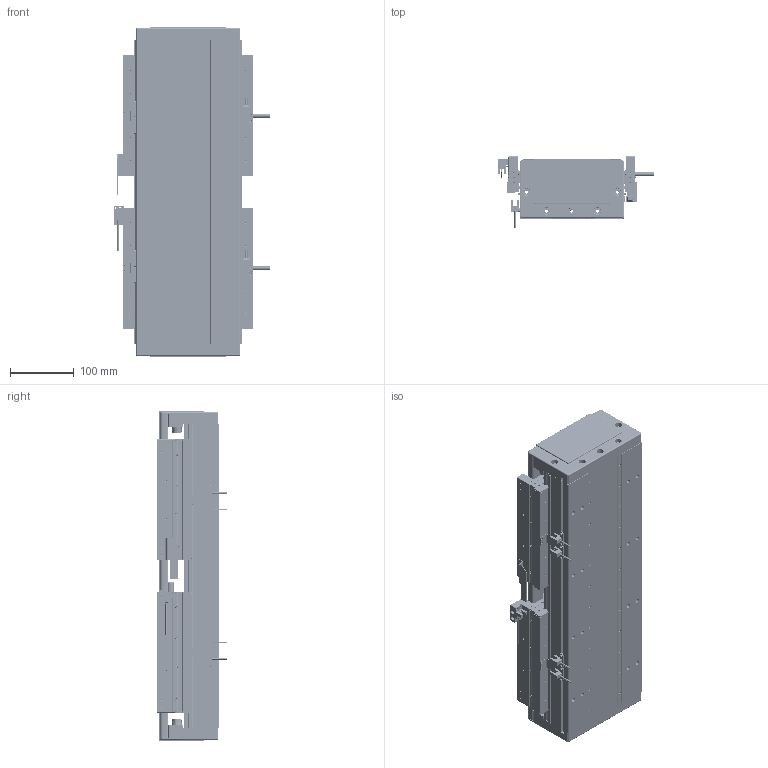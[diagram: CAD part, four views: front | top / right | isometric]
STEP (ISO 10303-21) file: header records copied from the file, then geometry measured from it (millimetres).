
FILE_DESCRIPTION (( 'STEP AP203' ), '1' );
FILE_NAME ('DA-C165-2-C2-T20-C010-0.2 直线电机.STEP', '2023-05-11T08:13:28', ( '微软用户' ), ( '微软中国' ), 'SwSTEP 2.0', 'SolidWorks 2019', '' );
FILE_SCHEMA (( 'CONFIG_CONTROL_DESIGN' ));
Length unit declared in the file: millimetre
Products named in the file (19): IU-CU165-L-00 菁釱_L480; 复件 DA126-GYP-ZJ-00 中间光电感应片^DA-C165-C2-T-C010-0.2-N 直线电机; 葩璃 DA95-GT-T-00^IU-CU165-L 菁釱絳寢_T; 复件 XD-U-02L 磁栅尺^DA-C165-C2-T-C010-0.2-N 直线电机_T; 葩璃 CKM01-W075-TRL^DA-C165-C2-T-C010-0.2-N 眻盄萇儂; 复件 DKW-HXJ-JY-00 缓冲橡胶^DA-C165-C2-T-C010-0.2-N 直线电机; DA-C165-2-C2-T20-C010-0.2 眻盄萇儂; 复件 DA165-GYP-00 光电感应片^DA-C165-C2-T-C010-0.2-N 直线电机; 复件 DA95-HXJ-00 缓冲橡胶^DA-C165-C2-T-C010-0.2-N 直线电机; 珨极趙賑雄怢啣wf-C2; 复件 66338-1000-006-00 光电感应块^DA-C165-C2-T-C010-0.2-N 直线电机; 复件 DA165-DG-H-N-00 端盖^DA-C165-C2-T-C010-0.2-N 直线电机; 复件 DMA-010-0.2 读数头^DA-C165-C2-T-C010-0.2-N 直线电机; 复件 CKM02-W075-C1C2-TP-3.0 一体电机-C2^DA-C165-C2-T-C010-0.2-N 直线电机; IU-CU165-L 菁釱絳寢; 复件 六角薄螺母 M3^DA-C165-C2-T-C010-0.2-N 直线电机_GB_FASTENER_NUT_STNAB M3-C; 葩璃 PM-Y45^DA-C165-C2-T-C010-0.2-N 眻盄萇儂; 复件 DA165-T-002-00 盖板^DA-C165-C2-T-C010-0.2-N 直线电机_0840-002-00; 葩璃 PM-T45^DA-C165-C2-T-C010-0.2-N 眻盄萇儂
Assembly tree (38 placements, depth 3):
  DA-C165-2-C2-T20-C010-0.2 眻盄萇儂
    IU-CU165-L 菁釱絳寢
      IU-CU165-L-00 菁釱_L480
      葩璃 DA95-GT-T-00^IU-CU165-L 菁釱絳寢_T  x4
    复件 DA165-DG-H-N-00 端盖^DA-C165-C2-T-C010-0.2-N 直线电机  x2
    复件 DA95-HXJ-00 缓冲橡胶^DA-C165-C2-T-C010-0.2-N 直线电机  x4
    复件 DA165-T-002-00 盖板^DA-C165-C2-T-C010-0.2-N 直线电机_0840-002-00
    复件 XD-U-02L 磁栅尺^DA-C165-C2-T-C010-0.2-N 直线电机_T
    葩璃 PM-T45^DA-C165-C2-T-C010-0.2-N 眻盄萇儂  x4
    葩璃 CKM01-W075-TRL^DA-C165-C2-T-C010-0.2-N 眻盄萇儂
    复件 CKM02-W075-C1C2-TP-3.0 一体电机-C2^DA-C165-C2-T-C010-0.2-N 直线电机  x2
    复件 DMA-010-0.2 读数头^DA-C165-C2-T-C010-0.2-N 直线电机  x2
    复件 DA165-GYP-00 光电感应片^DA-C165-C2-T-C010-0.2-N 直线电机  x2
    复件 66338-1000-006-00 光电感应块^DA-C165-C2-T-C010-0.2-N 直线电机
    葩璃 PM-Y45^DA-C165-C2-T-C010-0.2-N 眻盄萇儂
    复件 DA126-GYP-ZJ-00 中间光电感应片^DA-C165-C2-T-C010-0.2-N 直线电机
    复件 DKW-HXJ-JY-00 缓冲橡胶^DA-C165-C2-T-C010-0.2-N 直线电机  x2
    复件 六角薄螺母 M3^DA-C165-C2-T-C010-0.2-N 直线电机_GB_FASTENER_NUT_STNAB M3-C  x6
    珨极趙賑雄怢啣wf-C2  x2
Bounding box: 247.2 x 111.45 x 520 mm (x, y, z)
Volume: 6421034.2 mm3; surface area: 1509689.1 mm2
Topology: 115 solids, 115 shells, 4568 faces, 11855 edges, 7320 vertices
Faces by surface type: cylinder 2046, plane 1746, cone 680, torus 88, sphere 8
Entity records: 83364 total; most frequent: CARTESIAN_POINT 17146, DIRECTION 13701, ORIENTED_EDGE 12956, EDGE_CURVE 6478, AXIS2_PLACEMENT_3D 5058, VERTEX_POINT 4157, VECTOR 3585, LINE 3585
